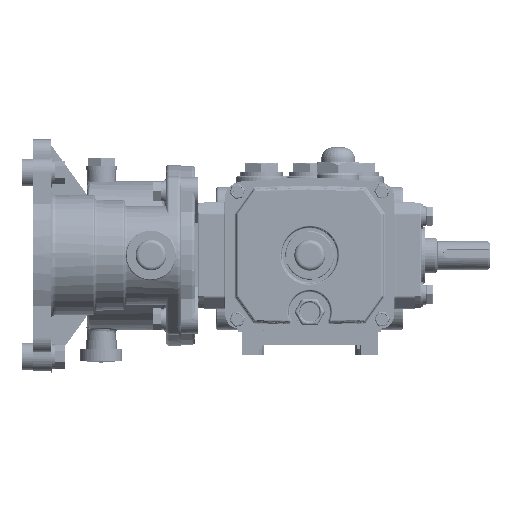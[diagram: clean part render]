
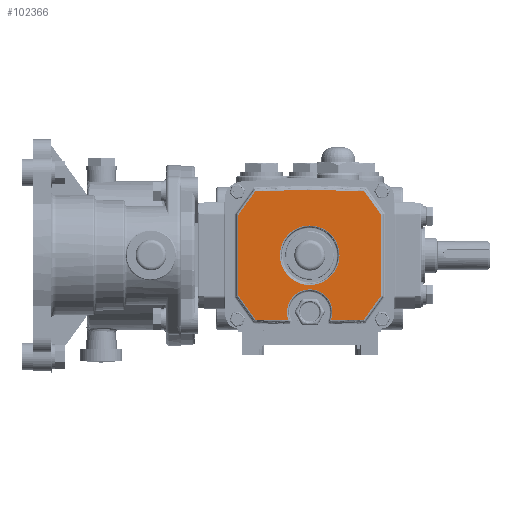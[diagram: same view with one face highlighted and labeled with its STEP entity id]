
A CAD part, top view. The second image highlights one B-rep face of the part: STEP entity #102366.
In plain terms, the highlighted planar face has unit normal (0, 0, 1).
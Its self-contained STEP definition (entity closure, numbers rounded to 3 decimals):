
#5918 = DIRECTION ( 'NONE',  ( -1., 0., 0. ) ) ;
#5920 = DIRECTION ( 'NONE',  ( 0., 0., 1. ) ) ;
#5922 = CARTESIAN_POINT ( 'NONE',  ( 0., 1443.329, 244.75 ) ) ;
#5926 = AXIS2_PLACEMENT_3D ( 'NONE', #5922, #5920, #5918 ) ;
#5929 = CIRCLE ( 'NONE', #5926, 1452.102 ) ;
#12491 = DIRECTION ( 'NONE',  ( -1., 0., 0. ) ) ;
#12494 = DIRECTION ( 'NONE',  ( 0., 0., 1. ) ) ;
#12498 = CARTESIAN_POINT ( 'NONE',  ( 0., 1443.329, 244.75 ) ) ;
#12499 = CIRCLE ( 'NONE', #12552, 1452.102 ) ;
#12515 = DIRECTION ( 'NONE',  ( -1., 0., 0. ) ) ;
#12519 = DIRECTION ( 'NONE',  ( 0., 0., -1. ) ) ;
#12523 = CARTESIAN_POINT ( 'NONE',  ( 0., -1369.329, 244.75 ) ) ;
#12552 = AXIS2_PLACEMENT_3D ( 'NONE', #12498, #12494, #12491 ) ;
#12573 = AXIS2_PLACEMENT_3D ( 'NONE', #12523, #12519, #12515 ) ;
#13596 = FACE_OUTER_BOUND ( 'NONE', #102389, .T. ) ;
#13637 = PLANE ( 'NONE',  #12573 ) ;
#13652 = CARTESIAN_POINT ( 'NONE',  ( -38.216, -8.27, 244.75 ) ) ;
#13683 = FACE_BOUND ( 'NONE', #102812, .T. ) ;
#15024 = CARTESIAN_POINT ( 'NONE',  ( 38.216, -8.27, 244.75 ) ) ;
#16964 = CARTESIAN_POINT ( 'NONE',  ( 14.952, -8.696, 244.75 ) ) ;
#17267 = CARTESIAN_POINT ( 'NONE',  ( 0., 37., 244.75 ) ) ;
#17333 = CARTESIAN_POINT ( 'NONE',  ( -50.25, 65.517, 244.75 ) ) ;
#17355 = DIRECTION ( 'NONE',  ( -1., 0., 0. ) ) ;
#17358 = DIRECTION ( 'NONE',  ( 0., 0., -1. ) ) ;
#17360 = CIRCLE ( 'NONE', #17380, 21. ) ;
#17380 = AXIS2_PLACEMENT_3D ( 'NONE', #17267, #17358, #17355 ) ;
#19114 = DIRECTION ( 'NONE',  ( 0., 1., 0. ) ) ;
#19117 = VECTOR ( 'NONE', #19114, 1000. ) ;
#19132 = CARTESIAN_POINT ( 'NONE',  ( 50.25, -1369.329, 244.75 ) ) ;
#19135 = LINE ( 'NONE', #19132, #19117 ) ;
#19140 = CARTESIAN_POINT ( 'NONE',  ( -38.216, 82.27, 244.75 ) ) ;
#19158 = CARTESIAN_POINT ( 'NONE',  ( 38.216, 82.27, 244.75 ) ) ;
#21031 = DIRECTION ( 'NONE',  ( -1., 0., 0. ) ) ;
#21036 = DIRECTION ( 'NONE',  ( 0., 0., -1. ) ) ;
#21043 = CARTESIAN_POINT ( 'NONE',  ( 50.25, 8.483, 244.75 ) ) ;
#21068 = AXIS2_PLACEMENT_3D ( 'NONE', #21071, #21036, #21031 ) ;
#21071 = CARTESIAN_POINT ( 'NONE',  ( 0., -3., 244.75 ) ) ;
#21073 = DIRECTION ( 'NONE',  ( -0.583, -0.812, 0. ) ) ;
#21076 = VECTOR ( 'NONE', #21073, 1000. ) ;
#21077 = CARTESIAN_POINT ( 'NONE',  ( -713.019, -857.161, 244.75 ) ) ;
#21079 = LINE ( 'NONE', #21077, #21076 ) ;
#21081 = CARTESIAN_POINT ( 'NONE',  ( 50.25, 65.517, 244.75 ) ) ;
#21084 = CIRCLE ( 'NONE', #21068, 16. ) ;
#21129 = DIRECTION ( 'NONE',  ( 0.583, -0.812, 0. ) ) ;
#21132 = VECTOR ( 'NONE', #21129, 1000. ) ;
#21135 = CARTESIAN_POINT ( 'NONE',  ( 619.7, -924.192, 244.75 ) ) ;
#21175 = LINE ( 'NONE', #21135, #21132 ) ;
#21191 = AXIS2_PLACEMENT_3D ( 'NONE', #21345, #21557, #21555 ) ;
#21218 = CIRCLE ( 'NONE', #21191, 1452.102 ) ;
#21345 = CARTESIAN_POINT ( 'NONE',  ( 0., -1369.329, 244.75 ) ) ;
#21555 = DIRECTION ( 'NONE',  ( -1., 0., 0. ) ) ;
#21557 = DIRECTION ( 'NONE',  ( 0., 0., 1. ) ) ;
#21648 = DIRECTION ( 'NONE',  ( 0.583, 0.812, 0. ) ) ;
#21651 = VECTOR ( 'NONE', #21648, 1000. ) ;
#21653 = CARTESIAN_POINT ( 'NONE',  ( -619.7, -924.192, 244.75 ) ) ;
#21655 = LINE ( 'NONE', #21653, #21651 ) ;
#38740 = VERTEX_POINT ( 'NONE', #139794 ) ;
#38885 = EDGE_CURVE ( 'NONE', #39714, #38740, #140075, .T. ) ;
#39714 = VERTEX_POINT ( 'NONE', #142265 ) ;
#41106 = EDGE_CURVE ( 'NONE', #41634, #41429, #146777, .T. ) ;
#41429 = VERTEX_POINT ( 'NONE', #147843 ) ;
#41634 = VERTEX_POINT ( 'NONE', #148327 ) ;
#41878 = EDGE_CURVE ( 'NONE', #42315, #41634, #149032, .T. ) ;
#42315 = VERTEX_POINT ( 'NONE', #151111 ) ;
#102180 = EDGE_CURVE ( 'NONE', #102610, #102474, #5929, .T. ) ;
#102186 = ORIENTED_EDGE ( 'NONE', *, *, #103110, .T. ) ;
#102227 = ORIENTED_EDGE ( 'NONE', *, *, #102815, .T. ) ;
#102341 = VERTEX_POINT ( 'NONE', #13652 ) ;
#102366 = ADVANCED_FACE ( 'NONE', ( #13683, #13596 ), #13637, .F. ) ;
#102369 = EDGE_CURVE ( 'NONE', #102341, #42315, #12499, .T. ) ;
#102375 = ORIENTED_EDGE ( 'NONE', *, *, #38885, .T. ) ;
#102389 = EDGE_LOOP ( 'NONE', ( #102391, #102394, #102396, #102186, #103387, #103107, #103413, #103388, #103010, #103403, #102778, #103096 ) ) ;
#102391 = ORIENTED_EDGE ( 'NONE', *, *, #102369, .T. ) ;
#102394 = ORIENTED_EDGE ( 'NONE', *, *, #41878, .T. ) ;
#102396 = ORIENTED_EDGE ( 'NONE', *, *, #41106, .T. ) ;
#102474 = VERTEX_POINT ( 'NONE', #15024 ) ;
#102610 = VERTEX_POINT ( 'NONE', #16964 ) ;
#102774 = VERTEX_POINT ( 'NONE', #17333 ) ;
#102778 = ORIENTED_EDGE ( 'NONE', *, *, #103417, .T. ) ;
#102812 = EDGE_LOOP ( 'NONE', ( #102375, #102227 ) ) ;
#102815 = EDGE_CURVE ( 'NONE', #38740, #39714, #17360, .T. ) ;
#102964 = VERTEX_POINT ( 'NONE', #19158 ) ;
#102969 = EDGE_CURVE ( 'NONE', #103129, #103102, #19135, .T. ) ;
#103010 = ORIENTED_EDGE ( 'NONE', *, *, #103230, .T. ) ;
#103015 = VERTEX_POINT ( 'NONE', #19140 ) ;
#103096 = ORIENTED_EDGE ( 'NONE', *, *, #103225, .T. ) ;
#103101 = EDGE_CURVE ( 'NONE', #103015, #102774, #21079, .T. ) ;
#103102 = VERTEX_POINT ( 'NONE', #21081 ) ;
#103107 = ORIENTED_EDGE ( 'NONE', *, *, #103126, .T. ) ;
#103110 = EDGE_CURVE ( 'NONE', #41429, #102610, #21084, .T. ) ;
#103126 = EDGE_CURVE ( 'NONE', #102474, #103129, #21655, .T. ) ;
#103129 = VERTEX_POINT ( 'NONE', #21043 ) ;
#103225 = EDGE_CURVE ( 'NONE', #103414, #102341, #21175, .T. ) ;
#103230 = EDGE_CURVE ( 'NONE', #102964, #103015, #21218, .T. ) ;
#103379 = EDGE_CURVE ( 'NONE', #103102, #102964, #133716, .T. ) ;
#103387 = ORIENTED_EDGE ( 'NONE', *, *, #102180, .T. ) ;
#103388 = ORIENTED_EDGE ( 'NONE', *, *, #103379, .T. ) ;
#103403 = ORIENTED_EDGE ( 'NONE', *, *, #103101, .T. ) ;
#103413 = ORIENTED_EDGE ( 'NONE', *, *, #102969, .T. ) ;
#103414 = VERTEX_POINT ( 'NONE', #133166 ) ;
#103417 = EDGE_CURVE ( 'NONE', #102774, #103414, #133127, .T. ) ;
#133117 = DIRECTION ( 'NONE',  ( 0., -1., 0. ) ) ;
#133120 = VECTOR ( 'NONE', #133117, 1000. ) ;
#133122 = CARTESIAN_POINT ( 'NONE',  ( -50.25, -1369.329, 244.75 ) ) ;
#133127 = LINE ( 'NONE', #133122, #133120 ) ;
#133166 = CARTESIAN_POINT ( 'NONE',  ( -50.25, 8.483, 244.75 ) ) ;
#133708 = DIRECTION ( 'NONE',  ( -0.583, 0.812, 0. ) ) ;
#133711 = VECTOR ( 'NONE', #133708, 1000. ) ;
#133713 = CARTESIAN_POINT ( 'NONE',  ( 713.019, -857.161, 244.75 ) ) ;
#133716 = LINE ( 'NONE', #133713, #133711 ) ;
#139794 = CARTESIAN_POINT ( 'NONE',  ( 21., 37., 244.75 ) ) ;
#140049 = DIRECTION ( 'NONE',  ( -1., 0., 0. ) ) ;
#140050 = DIRECTION ( 'NONE',  ( 0., 0., -1. ) ) ;
#140051 = CARTESIAN_POINT ( 'NONE',  ( 0., 37., 244.75 ) ) ;
#140075 = CIRCLE ( 'NONE', #140166, 21. ) ;
#140166 = AXIS2_PLACEMENT_3D ( 'NONE', #140051, #140050, #140049 ) ;
#142265 = CARTESIAN_POINT ( 'NONE',  ( -21., 37., 244.75 ) ) ;
#146765 = DIRECTION ( 'NONE',  ( -1., 0., 0. ) ) ;
#146767 = DIRECTION ( 'NONE',  ( 0., 0., -1. ) ) ;
#146770 = CARTESIAN_POINT ( 'NONE',  ( 0., -3., 244.75 ) ) ;
#146777 = CIRCLE ( 'NONE', #147212, 16. ) ;
#147212 = AXIS2_PLACEMENT_3D ( 'NONE', #146770, #146767, #146765 ) ;
#147843 = CARTESIAN_POINT ( 'NONE',  ( 16., -3., 244.75 ) ) ;
#148327 = CARTESIAN_POINT ( 'NONE',  ( -16., -3., 244.75 ) ) ;
#149027 = DIRECTION ( 'NONE',  ( -1., 0., 0. ) ) ;
#149029 = DIRECTION ( 'NONE',  ( 0., 0., -1. ) ) ;
#149031 = CARTESIAN_POINT ( 'NONE',  ( 0., -3., 244.75 ) ) ;
#149032 = CIRCLE ( 'NONE', #149044, 16. ) ;
#149044 = AXIS2_PLACEMENT_3D ( 'NONE', #149031, #149029, #149027 ) ;
#151111 = CARTESIAN_POINT ( 'NONE',  ( -14.952, -8.696, 244.75 ) ) ;
